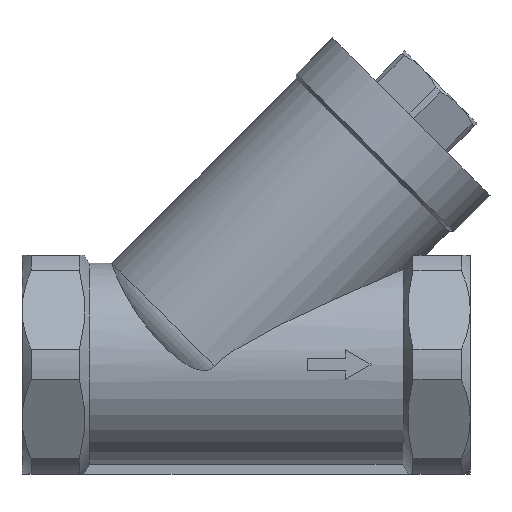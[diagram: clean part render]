
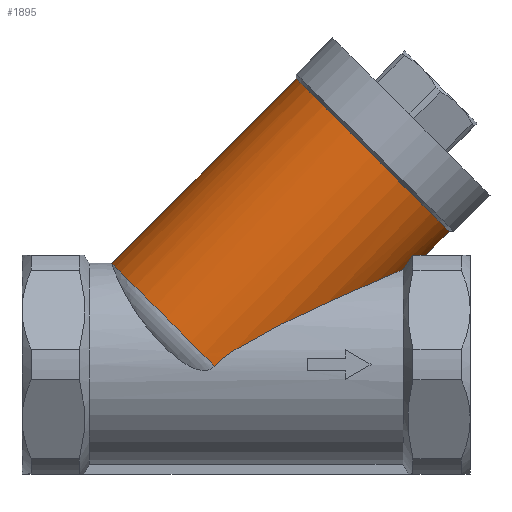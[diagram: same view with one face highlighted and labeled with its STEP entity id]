
A CAD part, top view. The second image highlights one B-rep face of the part: STEP entity #1895.
In plain terms, the highlighted cylindrical face has radius 33.75 mm (diameter 67.5 mm), a partial arc.
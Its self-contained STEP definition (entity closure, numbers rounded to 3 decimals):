
#83 = CARTESIAN_POINT ( 'NONE',  ( 55.959, 34.15, 0. ) ) ;
#122 = VECTOR ( 'NONE', #3159, 1000. ) ;
#180 = CARTESIAN_POINT ( 'NONE',  ( 49., 29.729, 10.859 ) ) ;
#238 = EDGE_CURVE ( 'NONE', #3277, #662, #1314, .T. ) ;
#300 = CARTESIAN_POINT ( 'NONE',  ( 15.688, 89.338, 0. ) ) ;
#334 = ORIENTED_EDGE ( 'NONE', *, *, #1618, .T. ) ;
#350 = CARTESIAN_POINT ( 'NONE',  ( 39.553, 65.473, 0. ) ) ;
#362 = CARTESIAN_POINT ( 'NONE',  ( -18.135, 7.785, 0. ) ) ;
#374 = EDGE_LOOP ( 'NONE', ( #1937, #334, #592, #534, #1343, #2678, #701 ) ) ;
#534 = ORIENTED_EDGE ( 'NONE', *, *, #549, .F. ) ;
#549 = EDGE_CURVE ( 'NONE', #1620, #696, #1804, .T. ) ;
#592 = ORIENTED_EDGE ( 'NONE', *, *, #1234, .F. ) ;
#631 = DIRECTION ( 'NONE',  ( -0.707, 0.707, 0. ) ) ;
#643 = CARTESIAN_POINT ( 'NONE',  ( 84.631, 62.821, 0. ) ) ;
#662 = VERTEX_POINT ( 'NONE', #1032 ) ;
#696 = VERTEX_POINT ( 'NONE', #300 ) ;
#701 = ORIENTED_EDGE ( 'NONE', *, *, #2237, .F. ) ;
#717 = CARTESIAN_POINT ( 'NONE',  ( 36.785, 24.411, 20.15 ) ) ;
#733 = CARTESIAN_POINT ( 'NONE',  ( 38.006, 24.947, 19.482 ) ) ;
#859 = CARTESIAN_POINT ( 'NONE',  ( 49.971, 31.166, 11.828 ) ) ;
#972 = CARTESIAN_POINT ( 'NONE',  ( 38.611, 25.212, 19.138 ) ) ;
#984 = CARTESIAN_POINT ( 'NONE',  ( 40.405, 25.997, 18.073 ) ) ;
#1032 = CARTESIAN_POINT ( 'NONE',  ( 55.959, 34.15, 0. ) ) ;
#1129 = B_SPLINE_CURVE_WITH_KNOTS ( 'NONE', 3,
 ( #2146, #1662, #859, #2691 ),
 .UNSPECIFIED., .F., .F.,
 ( 4, 4 ),
 ( 0., 0.006 ),
 .UNSPECIFIED. ) ;
#1234 = EDGE_CURVE ( 'NONE', #696, #1525, #2325, .T. ) ;
#1249 = EDGE_CURVE ( 'NONE', #1701, #2211, #2996, .T. ) ;
#1251 = CARTESIAN_POINT ( 'NONE',  ( 41.573, 26.507, 17.32 ) ) ;
#1254 = CARTESIAN_POINT ( 'NONE',  ( 22.922, 18.22, 25.918 ) ) ;
#1314 =( BOUNDED_CURVE ( )  B_SPLINE_CURVE ( 3, ( #1831, #2113, #2225, #83 ),
 .UNSPECIFIED., .F., .F. ) 
 B_SPLINE_CURVE_WITH_KNOTS ( ( 4, 4 ),
 ( 5.87, 6.283 ),
 .UNSPECIFIED. ) 
 CURVE ( )  GEOMETRIC_REPRESENTATION_ITEM ( )  RATIONAL_B_SPLINE_CURVE ( ( 1., 0.986, 0.986, 1. ) ) 
 REPRESENTATION_ITEM ( '' )  );
#1326 = CARTESIAN_POINT ( 'NONE',  ( 36.901, 110.551, 0. ) ) ;
#1343 = ORIENTED_EDGE ( 'NONE', *, *, #2303, .T. ) ;
#1383 = CARTESIAN_POINT ( 'NONE',  ( 25.486, 19.383, 25.065 ) ) ;
#1447 = AXIS2_PLACEMENT_3D ( 'NONE', #2126, #2090, #2142 ) ;
#1457 = CARTESIAN_POINT ( 'NONE',  ( 63.418, 41.608, 0. ) ) ;
#1505 = CARTESIAN_POINT ( 'NONE',  ( -9.841, -0.509, 31.646 ) ) ;
#1525 = VERTEX_POINT ( 'NONE', #1457 ) ;
#1529 = DIRECTION ( 'NONE',  ( -0.707, 0.707, 0. ) ) ;
#1539 = CARTESIAN_POINT ( 'NONE',  ( 43.842, 27.495, 15.705 ) ) ;
#1618 = EDGE_CURVE ( 'NONE', #662, #1525, #1694, .T. ) ;
#1620 = VERTEX_POINT ( 'NONE', #3164 ) ;
#1643 = CYLINDRICAL_SURFACE ( 'NONE', #1447, 33.75 ) ;
#1662 = CARTESIAN_POINT ( 'NONE',  ( 50.953, 32.643, 12.718 ) ) ;
#1686 = DIRECTION ( 'NONE',  ( 0.707, 0.707, 0. ) ) ;
#1694 = LINE ( 'NONE', #643, #122 ) ;
#1701 = VERTEX_POINT ( 'NONE', #180 ) ;
#1774 = CARTESIAN_POINT ( 'NONE',  ( -8.822, 0.576, 31.663 ) ) ;
#1798 = CARTESIAN_POINT ( 'NONE',  ( 44.942, 27.972, 14.844 ) ) ;
#1804 = LINE ( 'NONE', #1326, #2405 ) ;
#1831 = CARTESIAN_POINT ( 'NONE',  ( 51.94, 34.15, 13.556 ) ) ;
#1895 = ADVANCED_FACE ( 'NONE', ( #3010 ), #1643, .T. ) ;
#1937 = ORIENTED_EDGE ( 'NONE', *, *, #238, .T. ) ;
#2021 = CARTESIAN_POINT ( 'NONE',  ( -7.705, 1.545, 31.625 ) ) ;
#2033 = CARTESIAN_POINT ( 'NONE',  ( -5.366, 3.359, 31.484 ) ) ;
#2090 = DIRECTION ( 'NONE',  ( 0.707, 0.707, 0. ) ) ;
#2113 = CARTESIAN_POINT ( 'NONE',  ( 54.6, 34.15, 9.267 ) ) ;
#2124 = CIRCLE ( 'NONE', #2757, 33.75 ) ;
#2126 = CARTESIAN_POINT ( 'NONE',  ( 60.766, 86.686, 0. ) ) ;
#2142 = DIRECTION ( 'NONE',  ( -0.707, 0.707, 0. ) ) ;
#2146 = CARTESIAN_POINT ( 'NONE',  ( 51.94, 34.15, 13.556 ) ) ;
#2195 = DIRECTION ( 'NONE',  ( 0.707, 0.707, 0. ) ) ;
#2208 = CARTESIAN_POINT ( 'NONE',  ( 51.94, 34.15, 13.556 ) ) ;
#2211 = VERTEX_POINT ( 'NONE', #2943 ) ;
#2225 = CARTESIAN_POINT ( 'NONE',  ( 55.959, 34.15, 4.683 ) ) ;
#2237 = EDGE_CURVE ( 'NONE', #3277, #1701, #1129, .T. ) ;
#2270 = CARTESIAN_POINT ( 'NONE',  ( -4.14, 4.203, 31.38 ) ) ;
#2277 = CARTESIAN_POINT ( 'NONE',  ( -1.653, 5.802, 31.124 ) ) ;
#2303 = EDGE_CURVE ( 'NONE', #1620, #2211, #2124, .T. ) ;
#2325 = CIRCLE ( 'NONE', #2491, 33.75 ) ;
#2405 = VECTOR ( 'NONE', #2956, 1000. ) ;
#2491 = AXIS2_PLACEMENT_3D ( 'NONE', #350, #1686, #1529 ) ;
#2530 = CARTESIAN_POINT ( 'NONE',  ( -0.388, 6.56, 30.972 ) ) ;
#2547 = CARTESIAN_POINT ( 'NONE',  ( 2.169, 8.023, 30.625 ) ) ;
#2555 = CARTESIAN_POINT ( 'NONE',  ( 30.563, 21.662, 23.124 ) ) ;
#2562 = CARTESIAN_POINT ( 'NONE',  ( 47.05, 28.886, 12.976 ) ) ;
#2678 = ORIENTED_EDGE ( 'NONE', *, *, #1249, .F. ) ;
#2691 = CARTESIAN_POINT ( 'NONE',  ( 49., 29.729, 10.859 ) ) ;
#2757 = AXIS2_PLACEMENT_3D ( 'NONE', #362, #2195, #631 ) ;
#2790 = CARTESIAN_POINT ( 'NONE',  ( 15.167, 14.618, 28.107 ) ) ;
#2797 = CARTESIAN_POINT ( 'NONE',  ( 3.461, 8.729, 30.431 ) ) ;
#2806 = CARTESIAN_POINT ( 'NONE',  ( 33.076, 22.777, 22.038 ) ) ;
#2822 = CARTESIAN_POINT ( 'NONE',  ( 36.168, 24.14, 20.474 ) ) ;
#2943 = CARTESIAN_POINT ( 'NONE',  ( -9.841, -0.509, 31.646 ) ) ;
#2956 = DIRECTION ( 'NONE',  ( 0.707, 0.707, 0. ) ) ;
#2996 = B_SPLINE_CURVE_WITH_KNOTS ( 'NONE', 3,
 ( #3329, #3068, #2562, #1798, #1539, #1251, #984, #972, #733, #717, #2822, #2806, #2555, #1383, #1254, #3229, #2790, #3319, #3045, #2797, #2547, #2530, #2277, #2270, #2033, #2021, #1774, #1505 ),
 .UNSPECIFIED., .F., .F.,
 ( 4, 2, 2, 2, 2, 2, 2, 2, 2, 2, 2, 2, 2, 4 ),
 ( 0., 0.004, 0.009, 0.013, 0.016, 0.018, 0.027, 0.035, 0.044, 0.053, 0.058, 0.062, 0.066, 0.071 ),
 .UNSPECIFIED. ) ;
#3010 = FACE_OUTER_BOUND ( 'NONE', #374, .T. ) ;
#3045 = CARTESIAN_POINT ( 'NONE',  ( 7.356, 10.795, 29.787 ) ) ;
#3068 = CARTESIAN_POINT ( 'NONE',  ( 48.059, 29.323, 11.971 ) ) ;
#3159 = DIRECTION ( 'NONE',  ( 0.707, 0.707, 0. ) ) ;
#3164 = CARTESIAN_POINT ( 'NONE',  ( -42., 31.65, 0. ) ) ;
#3229 = CARTESIAN_POINT ( 'NONE',  ( 17.763, 15.837, 27.439 ) ) ;
#3277 = VERTEX_POINT ( 'NONE', #2208 ) ;
#3319 = CARTESIAN_POINT ( 'NONE',  ( 9.964, 12.096, 29.281 ) ) ;
#3329 = CARTESIAN_POINT ( 'NONE',  ( 49., 29.729, 10.859 ) ) ;
